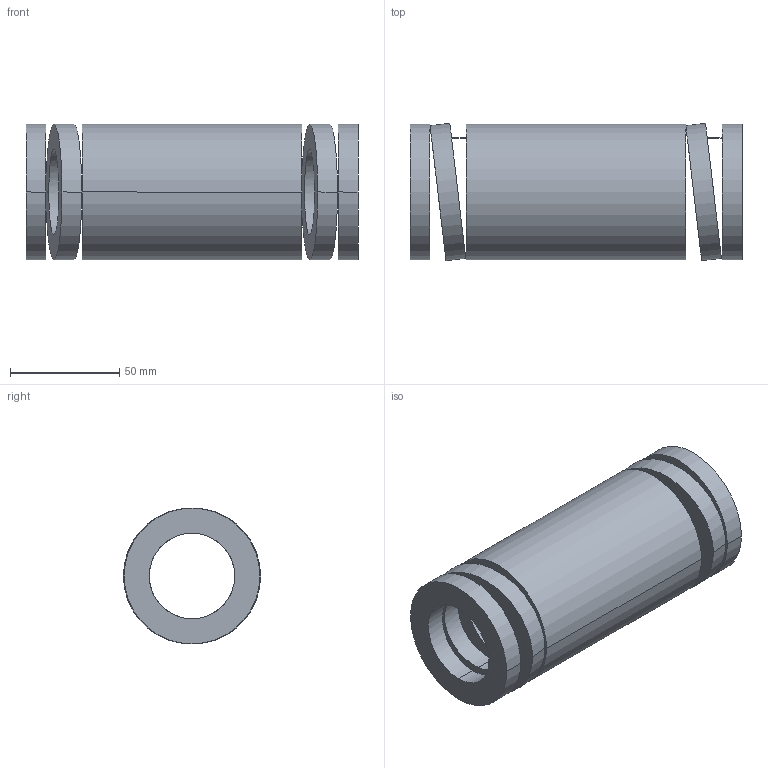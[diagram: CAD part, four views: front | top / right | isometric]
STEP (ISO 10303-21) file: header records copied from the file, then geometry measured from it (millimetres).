
FILE_DESCRIPTION(('CATIA V5 STEP Exchange'),'2;1');
FILE_NAME('C:\Users\Utente\Desktop\IO LAVORO\3D X SITO CF\X SITO\3D files 392B\392-B63-152.stp','2021-08-13T11:46:01+00:00',('none'),('none'),'CATIA Version 5 Release 20 GA (IN-10)','CATIA V5 STEP AP203','none');
FILE_SCHEMA(('CONFIG_CONTROL_DESIGN'));
Length unit declared in the file: millimetre
Products named in the file (1): 392-B63-152
Bounding box: 152 x 62.84 x 62.2 mm (x, y, z)
Volume: 250334 mm3; surface area: 61871.1 mm2
Topology: 1 solids, 1 shells, 38 faces, 92 edges, 64 vertices
Faces by surface type: cylinder 28, plane 10
Entity records: 1566 total; most frequent: CARTESIAN_POINT 677, ORIENTED_EDGE 184, DIRECTION 129, EDGE_CURVE 92, AXIS2_PLACEMENT_3D 64, VERTEX_POINT 64, EDGE_LOOP 56, B_SPLINE_CURVE_WITH_KNOTS 39
